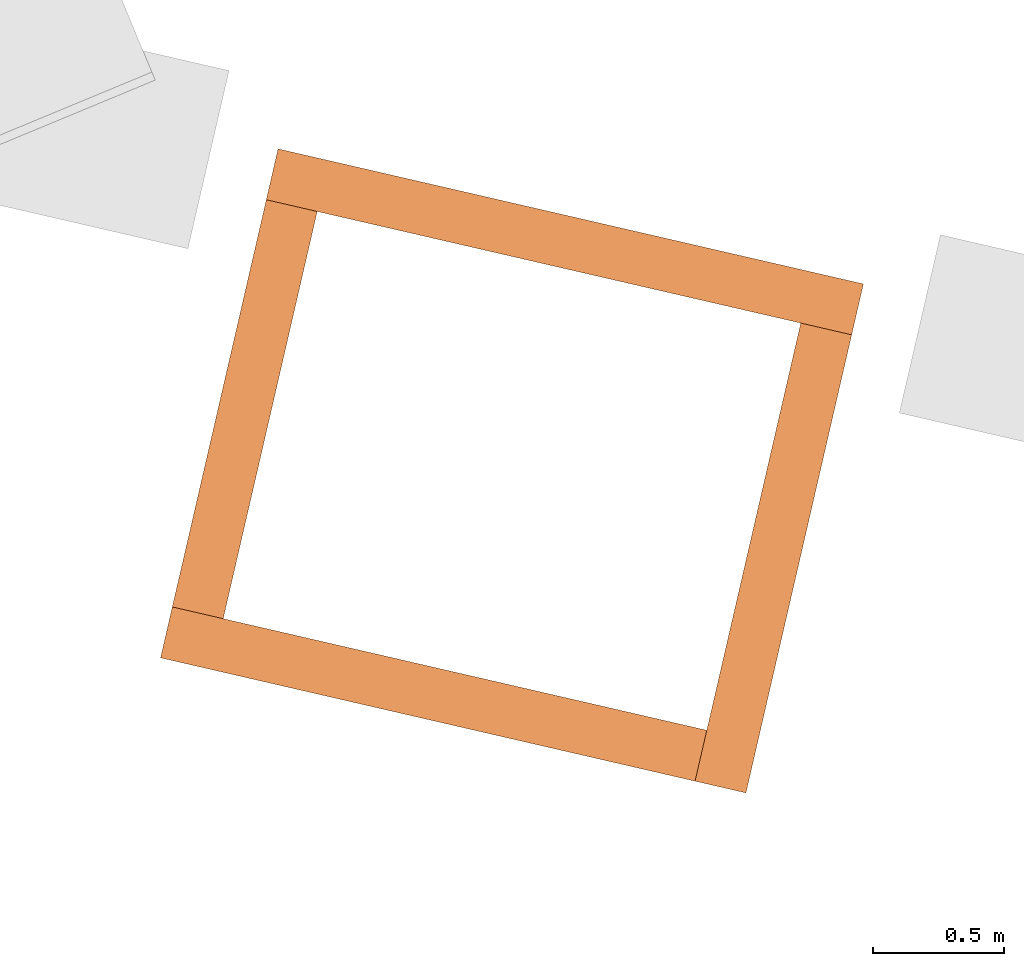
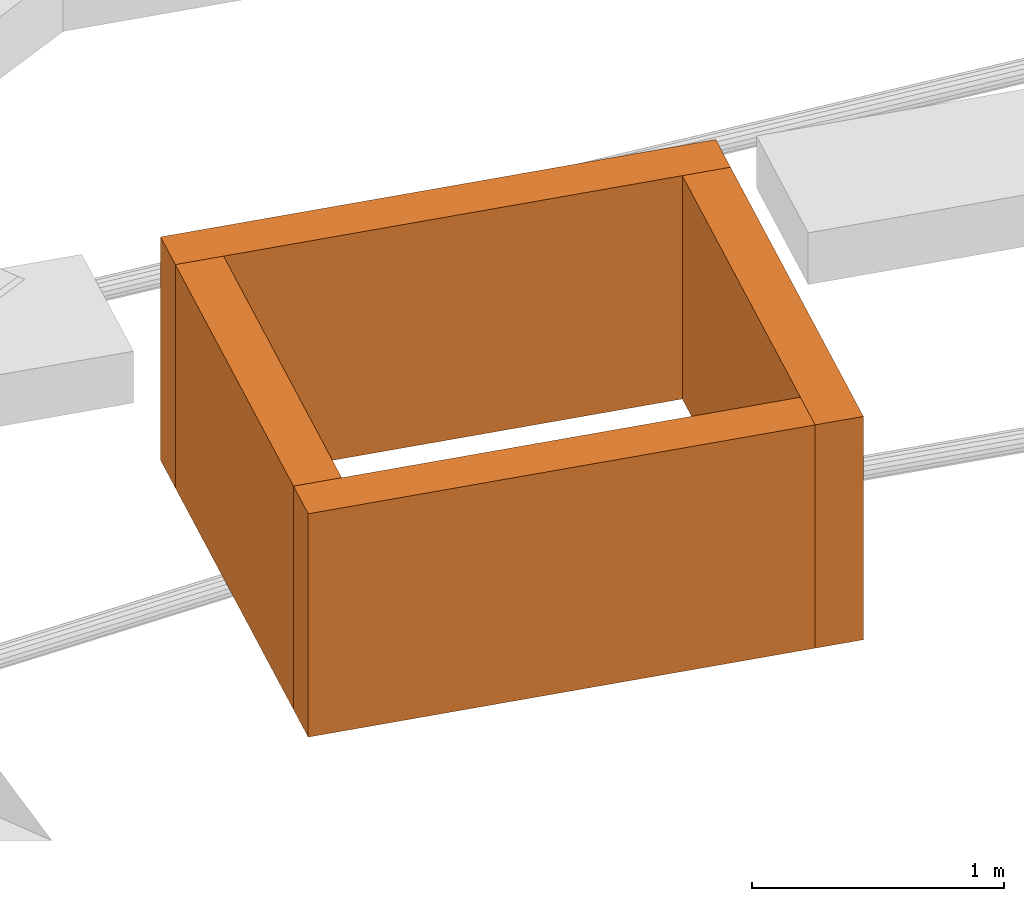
# One storey, part 6 of 6: 4 proxies.
"""IFC2X3 building model written with IfcOpenShell, lengths in metres."""

from ifc_helpers import new_model, entity, si_unit, converted_unit, derived_unit, money_unit, direction, frame, origin_with_axes, place, context, subcontext, project, spatial, faceted_brep, material, type_object, element, save


model = new_model("IFC2X3")

# Units and contexts
model_context = context("Model", 3, precision=1e-05, world=origin_with_axes(), true_north=direction((0.0, 1.0)))
body_context = subcontext(model_context, "Body", "Model", "MODEL_VIEW")
ifc_project = project(units=[si_unit("LENGTHUNIT", "METRE"), si_unit("AREAUNIT", "SQUARE_METRE"), si_unit("VOLUMEUNIT", "CUBIC_METRE"), converted_unit("PLANEANGLEUNIT", "DEGREE", entity("IfcPlaneAngleMeasure", 0.0174532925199), si_unit("PLANEANGLEUNIT", "RADIAN"), dimensions=[0, 0, 0, 0, 0, 0, 0]), si_unit("SOLIDANGLEUNIT", "STERADIAN"), money_unit("EUR"), converted_unit("TIMEUNIT", "Year", entity("IfcTimeMeasure", 31556926.0), si_unit("TIMEUNIT", "SECOND"), dimensions=[0, 0, 1, 0, 0, 0, 0]), si_unit("MASSUNIT", "GRAM", prefix="KILO"), si_unit("THERMODYNAMICTEMPERATUREUNIT", "DEGREE_CELSIUS"), si_unit("LUMINOUSINTENSITYUNIT", "LUMEN"), si_unit("ENERGYUNIT", "JOULE", prefix="MEGA"), derived_unit("THERMALCONDUCTANCEUNIT", [(si_unit("POWERUNIT", "WATT"), 1), (si_unit("LENGTHUNIT", "METRE"), -1), (si_unit("THERMODYNAMICTEMPERATUREUNIT", "KELVIN"), -1)]), derived_unit("SPECIFICHEATCAPACITYUNIT", [(si_unit("ENERGYUNIT", "JOULE"), 1), (si_unit("MASSUNIT", "GRAM", prefix="KILO"), -1), (si_unit("THERMODYNAMICTEMPERATUREUNIT", "KELVIN"), -1)]), derived_unit("MASSDENSITYUNIT", [(si_unit("MASSUNIT", "GRAM", prefix="KILO"), 1), (si_unit("VOLUMEUNIT", "CUBIC_METRE"), -1)])], contexts=[model_context])

# Site, building, storey
site_placement = place(None, origin_with_axes())
site = spatial("IfcSite", under=ifc_project, at=site_placement, Name="Site", CompositionType="ELEMENT")
building_placement = place(site_placement, origin_with_axes())
building = spatial("IfcBuilding", under=site, at=building_placement, Name="Bâtiment", CompositionType="ELEMENT")
storey_placement = place(building_placement, frame((0.0, 0.0, -5.7), z_axis=(0.0, 0.0, 1.0), x_axis=(1.0, 0.0, 0.0)))
storey = spatial("IfcBuildingStorey", under=building, at=storey_placement, Name="-2. Etage", CompositionType="ELEMENT", Elevation=-5.7)

# Proxies
ifc_material = material(Name="Béton armé (Banché)")
building_element_proxy_type = type_object("IfcBuildingElementProxyType", Name="Béton armé (Banché) 200", PredefinedType="NOTDEFINED")
proxy_1_placement = place(storey_placement, frame((-7.77362621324, -6.41391833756, 1.57), z_axis=(0.0, 0.0, 1.0), x_axis=(-0.974387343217, 0.224876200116, 0.0)))
element("IfcBuildingElementProxy", 1, at=proxy_1_placement, inside=storey, type_object=building_element_proxy_type, material=ifc_material, Name="M_Ext-007", context=body_context, shape_type="Brep", body=[
    faceted_brep([(2.1000000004, 0.0, 0.0), (2.1000000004, 0.0, 1.08), (1.90000000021, 7.01215085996e-10, 1.08), (7.02152114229e-10, 0.0, 1.08), (0.0, 0.0, 0.0), (2.10000000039, 0.2, 0.0), (2.10000000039, 0.2, 1.08), (0.0, 0.2, 1.08), (0.0, 0.2, 0.0)], [[[0, 1, 2, 3, 4]], [[5, 6, 1, 0]], [[6, 7, 3, 2, 1]], [[4, 3, 7, 8]], [[8, 5, 0, 4]], [[8, 7, 6, 5]]]),
])
proxy_2_placement = place(storey_placement, frame((-9.26516024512, -4.42763380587, 1.57), z_axis=(0.0, 0.0, 1.0), x_axis=(-0.224876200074, -0.974387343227, 0.0)))
element("IfcBuildingElementProxy", 2, at=proxy_2_placement, inside=storey, type_object=building_element_proxy_type, material=ifc_material, Name="M_Ext-007", context=body_context, shape_type="Brep", body=[
    faceted_brep([(0.0, -0.2, 0.0), (0.0, -0.2, 1.08), (3.21472803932e-09, -3.40348194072e-10, 1.08), (0.0, 0.0, 0.0), (1.60000000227, -0.2, 0.0), (1.60000000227, -0.2, 1.08), (1.60000000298, 1.90707893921e-10, 1.08), (1.60000000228, 0.0, 0.0)], [[[0, 1, 2, 3]], [[4, 5, 1, 0]], [[5, 6, 2, 1]], [[3, 2, 6, 7]], [[3, 7, 4, 0]], [[7, 6, 5, 4]]]),
])
proxy_3_placement = place(storey_placement, frame((-7.21894682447, -4.89987382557, 1.57), z_axis=(0.0, 0.0, 1.0), x_axis=(-0.974387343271, 0.224876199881, 0.0)))
element("IfcBuildingElementProxy", 3, at=proxy_3_placement, inside=storey, type_object=building_element_proxy_type, material=ifc_material, Name="M_Ext-007", context=body_context, shape_type="Brep", body=[
    faceted_brep([(2.29999999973, -0.2, 0.0), (2.29999999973, -0.2, 1.08), (0.0, -0.2, 1.08), (0.0, -0.2, 0.0), (2.29999999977, 0.0, 0.0), (2.29999999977, 0.0, 1.08), (0.2, 1.78838543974e-09, 1.08), (0.0, 0.0, 1.08), (2.10000000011, 3.21472715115e-09, 1.08), (0.0, 0.0, 0.0)], [[[0, 1, 2, 3]], [[4, 5, 1, 0]], [[6, 7, 2, 1, 5, 8]], [[3, 2, 7, 9]], [[9, 4, 0, 3]], [[6, 8, 5, 4, 9, 7]]]),
])
proxy_4_placement = place(storey_placement, frame((-7.41382429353, -4.85489858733, 1.57), z_axis=(0.0, 0.0, 1.0), x_axis=(-0.224876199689, -0.974387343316, 0.0)))
element("IfcBuildingElementProxy", 4, at=proxy_4_placement, inside=storey, type_object=building_element_proxy_type, material=ifc_material, Name="M_Ext-007", context=body_context, shape_type="Brep", body=[
    faceted_brep([(-1.78838632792e-09, 0.0, 0.0), (0.0, 0.0, 1.08), (-1.74877978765e-09, 0.2, 1.08), (-1.74877978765e-09, 0.2, 0.0), (1.80000000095, 0.0, 1.08), (1.60000000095, -7.02151226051e-10, 1.08), (1.80000000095, 0.0, 0.0), (1.80000000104, 0.2, 1.08), (1.80000000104, 0.2, 0.0)], [[[0, 1, 2, 3]], [[4, 5, 1, 0, 6]], [[4, 7, 2, 1, 5]], [[3, 2, 7, 8]], [[3, 8, 6, 0]], [[8, 7, 4, 6]]]),
])

save(model, "model.ifc")
